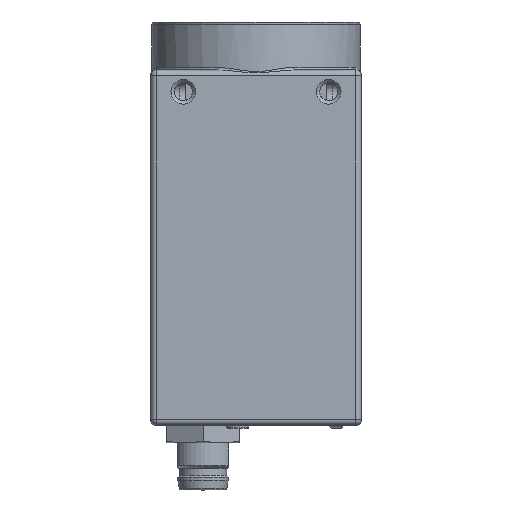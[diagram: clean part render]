
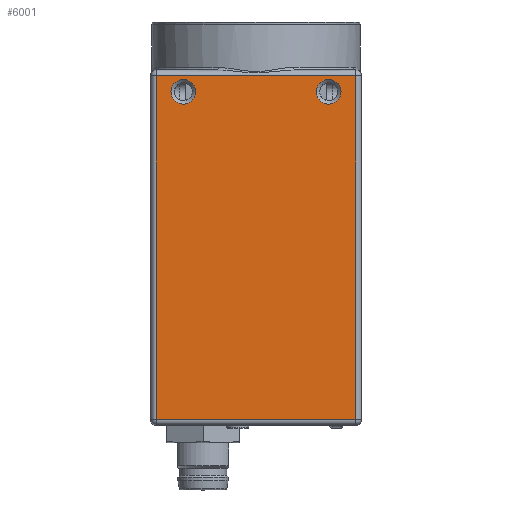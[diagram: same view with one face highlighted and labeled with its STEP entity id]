
A CAD part, left-side view. The second image highlights one B-rep face of the part: STEP entity #6001.
In plain terms, the highlighted planar face has unit normal (-1, 0, 0).
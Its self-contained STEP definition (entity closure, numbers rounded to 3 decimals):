
#6001 = ADVANCED_FACE( '', ( #13057, #13058, #13059 ), #13060, .T. );
#13057 = FACE_BOUND( '', #21883, .T. );
#13058 = FACE_BOUND( '', #21884, .T. );
#13059 = FACE_OUTER_BOUND( '', #21885, .T. );
#13060 = PLANE( '', #21886 );
#21883 = EDGE_LOOP( '', ( #40152 ) );
#21884 = EDGE_LOOP( '', ( #40153 ) );
#21885 = EDGE_LOOP( '', ( #40154, #40155, #40156, #40157 ) );
#21886 = AXIS2_PLACEMENT_3D( '', #40158, #40159, #40160 );
#40152 = ORIENTED_EDGE( '', *, *, #52649, .T. );
#40153 = ORIENTED_EDGE( '', *, *, #53981, .T. );
#40154 = ORIENTED_EDGE( '', *, *, #53982, .T. );
#40155 = ORIENTED_EDGE( '', *, *, #52422, .T. );
#40156 = ORIENTED_EDGE( '', *, *, #47070, .T. );
#40157 = ORIENTED_EDGE( '', *, *, #48692, .T. );
#40158 = CARTESIAN_POINT( '', ( -14.5, -14.5, 12.2 ) );
#40159 = DIRECTION( '', ( -1., 0., 0. ) );
#40160 = DIRECTION( '', ( 0., 0., 1. ) );
#47070 = EDGE_CURVE( '', #55483, #55481, #55484, .T. );
#48692 = EDGE_CURVE( '', #55481, #58339, #58341, .T. );
#52422 = EDGE_CURVE( '', #56735, #55483, #64101, .F. );
#52649 = EDGE_CURVE( '', #64412, #64412, #64413, .T. );
#53981 = EDGE_CURVE( '', #66118, #66118, #66119, .T. );
#53982 = EDGE_CURVE( '', #58339, #56735, #66120, .T. );
#55481 = VERTEX_POINT( '', #67933 );
#55483 = VERTEX_POINT( '', #67935 );
#55484 = LINE( '', #67936, #67937 );
#56735 = VERTEX_POINT( '', #69892 );
#58339 = VERTEX_POINT( '', #72125 );
#58341 = LINE( '', #72127, #72128 );
#64101 = LINE( '', #80546, #80547 );
#64412 = VERTEX_POINT( '', #81018 );
#64413 = CIRCLE( '', #81019, 1.7 );
#66118 = VERTEX_POINT( '', #83910 );
#66119 = CIRCLE( '', #83911, 1.7 );
#66120 = LINE( '', #83912, #83913 );
#67933 = CARTESIAN_POINT( '', ( -14.5, 13.7, 11.4 ) );
#67935 = CARTESIAN_POINT( '', ( -14.5, -13.7, 11.4 ) );
#67936 = CARTESIAN_POINT( '', ( -14.5, 14.5, 11.4 ) );
#67937 = VECTOR( '', #86132, 1000. );
#69892 = CARTESIAN_POINT( '', ( -14.5, -13.7, -35.9 ) );
#72125 = CARTESIAN_POINT( '', ( -14.5, 13.7, -35.9 ) );
#72127 = CARTESIAN_POINT( '', ( -14.5, 13.7, 12.2 ) );
#72128 = VECTOR( '', #88043, 1000. );
#80546 = CARTESIAN_POINT( '', ( -14.5, -13.7, 12.2 ) );
#80547 = VECTOR( '', #92567, 1000. );
#81018 = CARTESIAN_POINT( '', ( -14.5, -8.3, 9.2 ) );
#81019 = AXIS2_PLACEMENT_3D( '', #92806, #92807, #92808 );
#83910 = CARTESIAN_POINT( '', ( -14.5, 11.7, 9.2 ) );
#83911 = AXIS2_PLACEMENT_3D( '', #94142, #94143, #94144 );
#83912 = CARTESIAN_POINT( '', ( -14.5, -14.5, -35.9 ) );
#83913 = VECTOR( '', #94145, 1000. );
#86132 = DIRECTION( '', ( 0., 1., 0. ) );
#88043 = DIRECTION( '', ( 0., 0., -1. ) );
#92567 = DIRECTION( '', ( 0., 0., -1. ) );
#92806 = CARTESIAN_POINT( '', ( -14.5, -10., 9.2 ) );
#92807 = DIRECTION( '', ( 1., 0., 0. ) );
#92808 = DIRECTION( '', ( 0., 1., 0. ) );
#94142 = CARTESIAN_POINT( '', ( -14.5, 10., 9.2 ) );
#94143 = DIRECTION( '', ( 1., 0., 0. ) );
#94144 = DIRECTION( '', ( 0., 1., 0. ) );
#94145 = DIRECTION( '', ( 0., -1., 0. ) );
